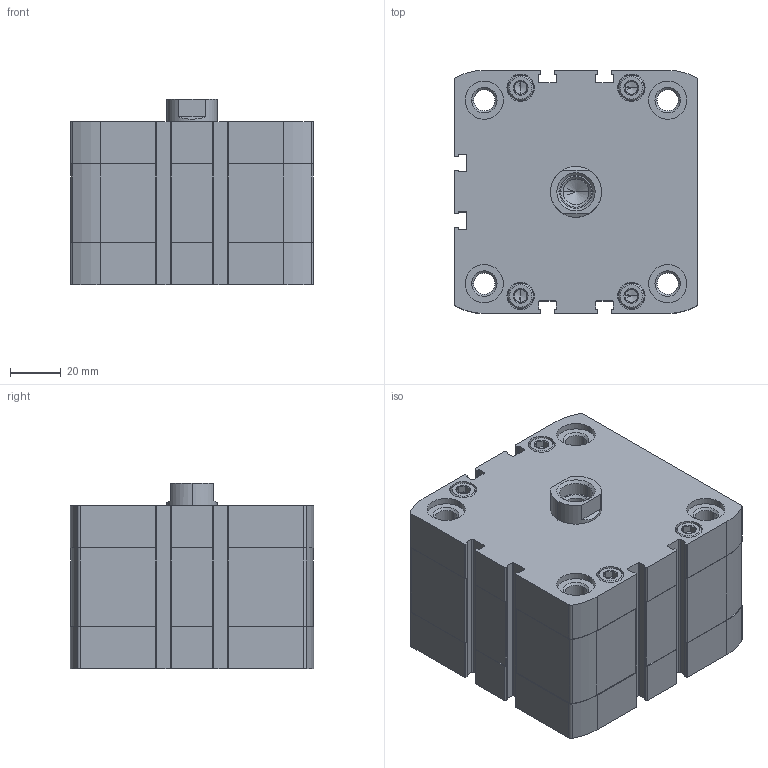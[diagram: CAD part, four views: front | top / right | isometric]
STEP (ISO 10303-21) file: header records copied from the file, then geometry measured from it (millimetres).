
FILE_DESCRIPTION (( 'STEP AP203' ), '1' );
FILE_NAME ('CCN80-10F.STEP', '2017-04-05T18:35:08', ( '' ), ( '' ), 'SwSTEP 2.0', 'SolidWorks 2016', '' );
FILE_SCHEMA (( 'CONFIG_CONTROL_DESIGN' ));
Length unit declared in the file: millimetre
Products named in the file (3): CCN-10----(Z); CCN-10_(KS); CCN80-10F
Assembly tree (2 placements, depth 2):
  CCN80-10F
    CCN-10----(Z)
    CCN-10_(KS)
Bounding box: 95.5 x 95.5 x 72.9 mm (x, y, z)
Volume: 497942.6 mm3; surface area: 93589.8 mm2
Topology: 2 solids, 2 shells, 487 faces, 1248 edges, 795 vertices
Faces by surface type: plane 227, cylinder 186, cone 74
Entity records: 15441 total; most frequent: CARTESIAN_POINT 3067, DIRECTION 2648, ORIENTED_EDGE 2460, EDGE_CURVE 1230, AXIS2_PLACEMENT_3D 992, VERTEX_POINT 795, VECTOR 664, LINE 664
